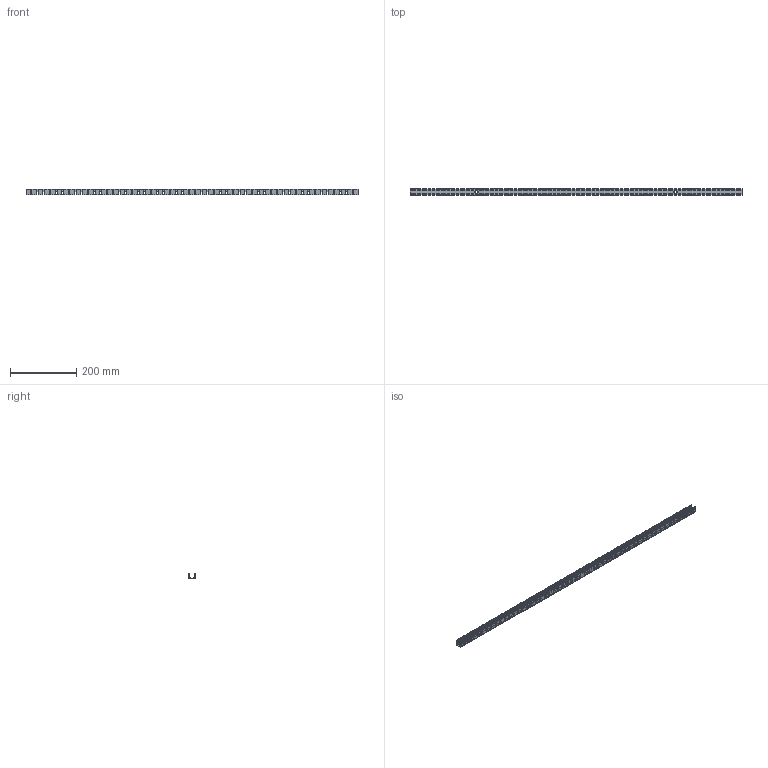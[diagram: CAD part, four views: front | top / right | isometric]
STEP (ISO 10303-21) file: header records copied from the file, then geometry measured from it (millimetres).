
FILE_DESCRIPTION(/* description */ (''),/* implementation_level */ '2;1');
FILE_NAME(/* name */ 'NF_1313_CURVED_PROFILE_TOP_BEND_L1000_R01.step',/* time_stamp */ '2026-07-24T14:35:08+02:00',/* author */ (''),/* organization */ (''),/* preprocessor_version */ 'ST-DEVELOPER v20.1',/* originating_system */ 'Autodesk Translation Framework v15.8.0.0',/* authorisation */ '');
FILE_SCHEMA (('AUTOMOTIVE_DESIGN { 1 0 10303 214 3 1 1 }'));
Products named in the file (1): 2026-07-16-12-00-38-010
Bounding box: 1000 x 18.55 x 17.8 mm (x, y, z)
Volume: 84481.2 mm3; surface area: 167072.1 mm2
Topology: 3 solids, 3 shells, 2647 faces, 8547 edges, 5698 vertices
Faces by surface type: plane 1838, cylinder 752, bspline 57
Entity records: 95371 total; most frequent: CARTESIAN_POINT 18470, ORIENTED_EDGE 17094, DIRECTION 15347, EDGE_CURVE 8547, LINE 6721, VECTOR 6721, VERTEX_POINT 5698, AXIS2_PLACEMENT_3D 4313
